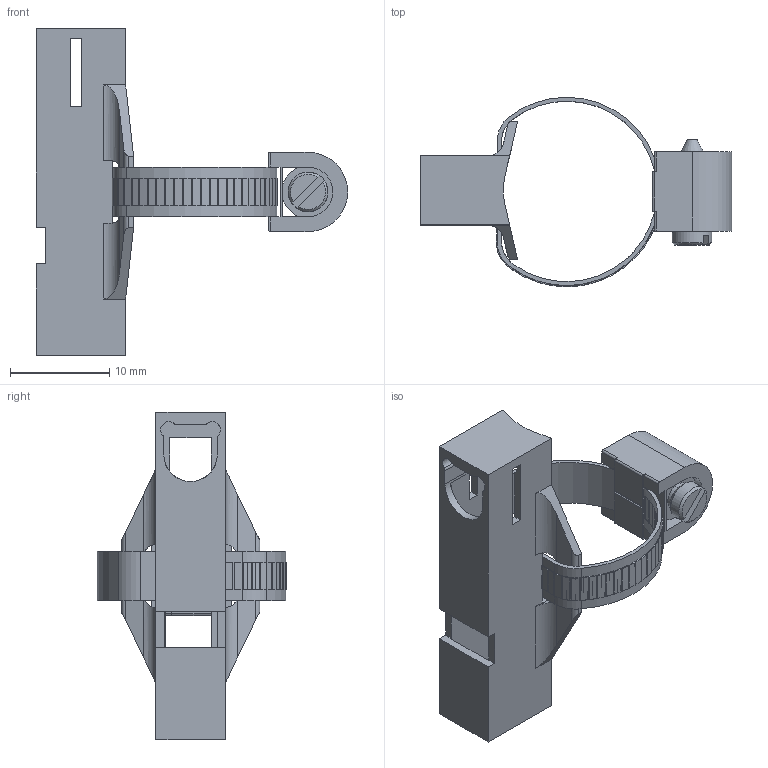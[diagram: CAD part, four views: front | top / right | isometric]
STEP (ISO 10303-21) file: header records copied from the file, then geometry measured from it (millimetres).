
FILE_DESCRIPTION((''),'2;1');
FILE_NAME('C:\TurckZip\KLR-1-ASB.stp','2009-06-16T11:14:48',('IKOROL'),(''),'Autodesk Inventor 2009','Autodesk Inventor 2009','');
FILE_SCHEMA(('CONFIG_CONTROL_DESIGN'));
Length unit declared in the file: millimetre
Products named in the file (1): Part1
Bounding box: 31.42 x 19.11 x 33.02 mm (x, y, z)
Volume: 1213.7 mm3; surface area: 3148.6 mm2
Topology: 28 solids, 28 shells, 532 faces, 1343 edges, 888 vertices
Faces by surface type: plane 485, cylinder 43, cone 4
Full cylindrical faces by diameter (mm): 2.842 x1, 4 x1
Entity records: 16434 total; most frequent: CARTESIAN_POINT 2873, ORIENTED_EDGE 2726, DIRECTION 2586, EDGE_CURVE 1363, VECTOR 1190, LINE 1190, VERTEX_POINT 885, AXIS2_PLACEMENT_3D 698
